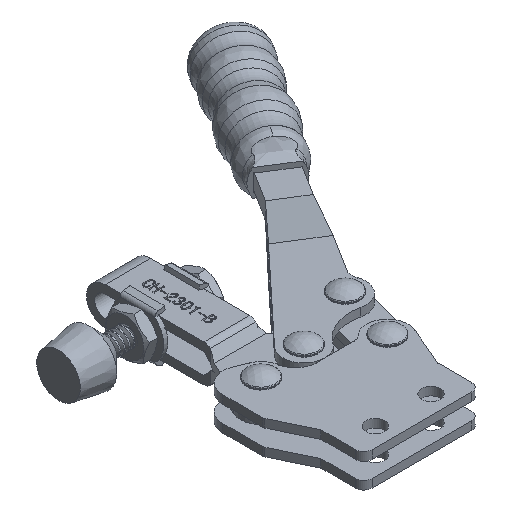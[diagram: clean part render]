
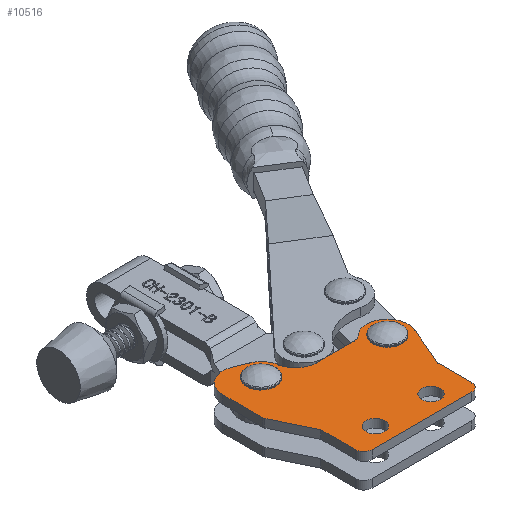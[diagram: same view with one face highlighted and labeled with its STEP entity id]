
A CAD part, isometric view. The second image highlights one B-rep face of the part: STEP entity #10516.
In plain terms, the highlighted planar face has unit normal (0, 0, 1).
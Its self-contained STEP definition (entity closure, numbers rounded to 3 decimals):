
#200=FACE_BOUND('',#2117,.T.);
#201=FACE_BOUND('',#2118,.T.);
#202=FACE_BOUND('',#2119,.T.);
#203=FACE_BOUND('',#2120,.T.);
#1067=PLANE('',#11166);
#1523=FACE_OUTER_BOUND('',#2116,.T.);
#2116=EDGE_LOOP('',(#9130,#9131,#9132,#9133,#9134,#9135,#9136,#9137,#9138,
#9139,#9140,#9141,#9142,#9143,#9144,#9145));
#2117=EDGE_LOOP('',(#9146,#9147));
#2118=EDGE_LOOP('',(#9148,#9149));
#2119=EDGE_LOOP('',(#9150,#9151));
#2120=EDGE_LOOP('',(#9152,#9153));
#2972=LINE('',#24680,#3821);
#2975=LINE('',#24688,#3824);
#2978=LINE('',#24696,#3827);
#2979=LINE('',#24698,#3828);
#2981=LINE('',#24702,#3830);
#2984=LINE('',#24710,#3833);
#2987=LINE('',#24720,#3836);
#2988=LINE('',#24722,#3837);
#3821=VECTOR('',#12727,1000.);
#3824=VECTOR('',#12736,1000.);
#3827=VECTOR('',#12745,1000.);
#3828=VECTOR('',#12748,1000.);
#3830=VECTOR('',#12752,1000.);
#3833=VECTOR('',#12761,1000.);
#3836=VECTOR('',#12774,1000.);
#3837=VECTOR('',#12777,1000.);
#4046=CIRCLE('',#11116,2.25);
#4047=CIRCLE('',#11117,2.25);
#4050=CIRCLE('',#11121,2.25);
#4051=CIRCLE('',#11122,2.25);
#4053=CIRCLE('',#11125,5.);
#4056=CIRCLE('',#11129,2.);
#4057=CIRCLE('',#11130,2.);
#4060=CIRCLE('',#11134,2.);
#4061=CIRCLE('',#11135,2.);
#4063=CIRCLE('',#11138,1.);
#4065=CIRCLE('',#11141,2.);
#4071=CIRCLE('',#11150,2.);
#4072=CIRCLE('',#11153,2.);
#4073=CIRCLE('',#11158,5.);
#4074=CIRCLE('',#11161,5.1);
#4075=CIRCLE('',#11163,5.052);
#4964=VERTEX_POINT('',#24591);
#4965=VERTEX_POINT('',#24593);
#4968=VERTEX_POINT('',#24601);
#4969=VERTEX_POINT('',#24603);
#4972=VERTEX_POINT('',#24610);
#4973=VERTEX_POINT('',#24612);
#4976=VERTEX_POINT('',#24620);
#4977=VERTEX_POINT('',#24622);
#4980=VERTEX_POINT('',#24630);
#4981=VERTEX_POINT('',#24632);
#4984=VERTEX_POINT('',#24639);
#4985=VERTEX_POINT('',#24641);
#4987=VERTEX_POINT('',#24647);
#4999=VERTEX_POINT('',#24676);
#5000=VERTEX_POINT('',#24678);
#5001=VERTEX_POINT('',#24682);
#5002=VERTEX_POINT('',#24686);
#5003=VERTEX_POINT('',#24690);
#5004=VERTEX_POINT('',#24694);
#5005=VERTEX_POINT('',#24700);
#5006=VERTEX_POINT('',#24704);
#5007=VERTEX_POINT('',#24708);
#5008=VERTEX_POINT('',#24712);
#5009=VERTEX_POINT('',#24716);
#6383=EDGE_CURVE('',#4964,#4965,#4046,.T.);
#6384=EDGE_CURVE('',#4965,#4964,#4047,.T.);
#6388=EDGE_CURVE('',#4968,#4969,#4050,.T.);
#6389=EDGE_CURVE('',#4969,#4968,#4051,.T.);
#6392=EDGE_CURVE('',#4972,#4973,#4053,.T.);
#6397=EDGE_CURVE('',#4976,#4977,#4056,.T.);
#6398=EDGE_CURVE('',#4977,#4976,#4057,.T.);
#6402=EDGE_CURVE('',#4980,#4981,#4060,.T.);
#6403=EDGE_CURVE('',#4981,#4980,#4061,.T.);
#6406=EDGE_CURVE('',#4984,#4985,#4063,.T.);
#6410=EDGE_CURVE('',#4972,#4987,#4065,.T.);
#6426=EDGE_CURVE('',#5000,#4999,#2972,.T.);
#6427=EDGE_CURVE('',#4999,#5001,#4071,.T.);
#6430=EDGE_CURVE('',#5001,#5002,#2975,.T.);
#6431=EDGE_CURVE('',#5002,#5003,#4072,.T.);
#6434=EDGE_CURVE('',#5003,#5004,#2978,.T.);
#6435=EDGE_CURVE('',#5004,#4984,#2979,.T.);
#6437=EDGE_CURVE('',#4985,#5005,#2981,.T.);
#6438=EDGE_CURVE('',#5005,#5006,#4073,.T.);
#6441=EDGE_CURVE('',#5006,#5007,#2984,.T.);
#6442=EDGE_CURVE('',#5007,#5008,#4074,.T.);
#6445=EDGE_CURVE('',#5008,#5009,#4075,.T.);
#6446=EDGE_CURVE('',#5009,#4987,#2987,.T.);
#6447=EDGE_CURVE('',#4973,#5000,#2988,.T.);
#9130=ORIENTED_EDGE('',*,*,#6392,.F.);
#9131=ORIENTED_EDGE('',*,*,#6410,.T.);
#9132=ORIENTED_EDGE('',*,*,#6446,.F.);
#9133=ORIENTED_EDGE('',*,*,#6445,.F.);
#9134=ORIENTED_EDGE('',*,*,#6442,.F.);
#9135=ORIENTED_EDGE('',*,*,#6441,.F.);
#9136=ORIENTED_EDGE('',*,*,#6438,.F.);
#9137=ORIENTED_EDGE('',*,*,#6437,.F.);
#9138=ORIENTED_EDGE('',*,*,#6406,.F.);
#9139=ORIENTED_EDGE('',*,*,#6435,.F.);
#9140=ORIENTED_EDGE('',*,*,#6434,.F.);
#9141=ORIENTED_EDGE('',*,*,#6431,.F.);
#9142=ORIENTED_EDGE('',*,*,#6430,.F.);
#9143=ORIENTED_EDGE('',*,*,#6427,.F.);
#9144=ORIENTED_EDGE('',*,*,#6426,.F.);
#9145=ORIENTED_EDGE('',*,*,#6447,.F.);
#9146=ORIENTED_EDGE('',*,*,#6398,.F.);
#9147=ORIENTED_EDGE('',*,*,#6397,.F.);
#9148=ORIENTED_EDGE('',*,*,#6403,.F.);
#9149=ORIENTED_EDGE('',*,*,#6402,.F.);
#9150=ORIENTED_EDGE('',*,*,#6384,.F.);
#9151=ORIENTED_EDGE('',*,*,#6383,.F.);
#9152=ORIENTED_EDGE('',*,*,#6389,.F.);
#9153=ORIENTED_EDGE('',*,*,#6388,.F.);
#10516=ADVANCED_FACE('',(#1523,#200,#201,#202,#203),#1067,.F.);
#11116=AXIS2_PLACEMENT_3D('',#24594,#12643,#12644);
#11117=AXIS2_PLACEMENT_3D('',#24595,#12645,#12646);
#11121=AXIS2_PLACEMENT_3D('',#24604,#12654,#12655);
#11122=AXIS2_PLACEMENT_3D('',#24605,#12656,#12657);
#11125=AXIS2_PLACEMENT_3D('',#24613,#12663,#12664);
#11129=AXIS2_PLACEMENT_3D('',#24623,#12673,#12674);
#11130=AXIS2_PLACEMENT_3D('',#24624,#12675,#12676);
#11134=AXIS2_PLACEMENT_3D('',#24633,#12684,#12685);
#11135=AXIS2_PLACEMENT_3D('',#24634,#12686,#12687);
#11138=AXIS2_PLACEMENT_3D('',#24642,#12693,#12694);
#11141=AXIS2_PLACEMENT_3D('',#24649,#12701,#12702);
#11150=AXIS2_PLACEMENT_3D('',#24683,#12730,#12731);
#11153=AXIS2_PLACEMENT_3D('',#24691,#12739,#12740);
#11158=AXIS2_PLACEMENT_3D('',#24705,#12755,#12756);
#11161=AXIS2_PLACEMENT_3D('',#24713,#12764,#12765);
#11163=AXIS2_PLACEMENT_3D('',#24718,#12770,#12771);
#11166=AXIS2_PLACEMENT_3D('',#24723,#12778,#12779);
#12643=DIRECTION('center_axis',(0.,0.,1.));
#12644=DIRECTION('ref_axis',(1.,0.,0.));
#12645=DIRECTION('center_axis',(0.,0.,1.));
#12646=DIRECTION('ref_axis',(1.,0.,0.));
#12654=DIRECTION('center_axis',(0.,0.,1.));
#12655=DIRECTION('ref_axis',(1.,0.,0.));
#12656=DIRECTION('center_axis',(0.,0.,1.));
#12657=DIRECTION('ref_axis',(1.,0.,0.));
#12663=DIRECTION('center_axis',(0.,0.,-1.));
#12664=DIRECTION('ref_axis',(1.,0.,0.));
#12673=DIRECTION('center_axis',(0.,0.,1.));
#12674=DIRECTION('ref_axis',(1.,0.,0.));
#12675=DIRECTION('center_axis',(0.,0.,1.));
#12676=DIRECTION('ref_axis',(1.,0.,0.));
#12684=DIRECTION('center_axis',(0.,0.,1.));
#12685=DIRECTION('ref_axis',(1.,0.,0.));
#12686=DIRECTION('center_axis',(0.,0.,1.));
#12687=DIRECTION('ref_axis',(1.,0.,0.));
#12693=DIRECTION('center_axis',(0.,0.,-1.));
#12694=DIRECTION('ref_axis',(1.,0.,0.));
#12701=DIRECTION('center_axis',(0.,0.,-1.));
#12702=DIRECTION('ref_axis',(1.,0.,0.));
#12727=DIRECTION('',(0.,-1.,0.));
#12730=DIRECTION('center_axis',(0.,0.,-1.));
#12731=DIRECTION('ref_axis',(1.,0.,0.));
#12736=DIRECTION('',(-1.,0.,0.));
#12739=DIRECTION('center_axis',(0.,0.,-1.));
#12740=DIRECTION('ref_axis',(1.,0.,0.));
#12745=DIRECTION('',(0.,1.,0.));
#12748=DIRECTION('',(-0.437,0.9,0.));
#12752=DIRECTION('',(0.,1.,0.));
#12755=DIRECTION('center_axis',(0.,0.,-1.));
#12756=DIRECTION('ref_axis',(1.,0.,0.));
#12761=DIRECTION('',(0.925,-0.38,0.));
#12764=DIRECTION('center_axis',(0.,0.,-1.));
#12765=DIRECTION('ref_axis',(1.,0.,0.));
#12770=DIRECTION('center_axis',(0.,0.,1.));
#12771=DIRECTION('ref_axis',(1.,0.,0.));
#12774=DIRECTION('',(1.,0.,0.));
#12777=DIRECTION('',(-0.392,-0.92,0.));
#12778=DIRECTION('center_axis',(0.,0.,-1.));
#12779=DIRECTION('ref_axis',(-1.,0.,0.));
#24591=CARTESIAN_POINT('',(18.45,4.5,8.));
#24593=CARTESIAN_POINT('',(22.95,4.5,8.));
#24594=CARTESIAN_POINT('Origin',(20.7,4.5,8.));
#24595=CARTESIAN_POINT('Origin',(20.7,4.5,8.));
#24601=CARTESIAN_POINT('',(5.05,4.5,8.));
#24603=CARTESIAN_POINT('',(9.55,4.5,8.));
#24604=CARTESIAN_POINT('Origin',(7.3,4.5,8.));
#24605=CARTESIAN_POINT('Origin',(7.3,4.5,8.));
#24610=CARTESIAN_POINT('',(24.001,25.371,8.));
#24612=CARTESIAN_POINT('',(32.099,19.838,8.));
#24613=CARTESIAN_POINT('Origin',(27.5,21.8,8.));
#24620=CARTESIAN_POINT('',(1.4,28.1,8.));
#24622=CARTESIAN_POINT('',(5.4,28.1,8.));
#24623=CARTESIAN_POINT('Origin',(3.4,28.1,8.));
#24624=CARTESIAN_POINT('Origin',(3.4,28.1,8.));
#24630=CARTESIAN_POINT('',(25.5,21.8,8.));
#24632=CARTESIAN_POINT('',(29.5,21.8,8.));
#24633=CARTESIAN_POINT('Origin',(27.5,21.8,8.));
#24634=CARTESIAN_POINT('Origin',(27.5,21.8,8.));
#24639=CARTESIAN_POINT('',(-4.4,19.361,8.));
#24641=CARTESIAN_POINT('',(-4.5,19.797,8.));
#24642=CARTESIAN_POINT('Origin',(-3.5,19.797,8.));
#24647=CARTESIAN_POINT('',(22.601,24.8,8.));
#24649=CARTESIAN_POINT('Origin',(22.601,26.8,8.));
#24676=CARTESIAN_POINT('',(28.031,2.,8.));
#24678=CARTESIAN_POINT('',(28.031,10.3,8.));
#24680=CARTESIAN_POINT('',(28.031,21.8,8.));
#24682=CARTESIAN_POINT('',(26.031,0.,8.));
#24683=CARTESIAN_POINT('Origin',(26.031,2.,8.));
#24686=CARTESIAN_POINT('',(2.,0.,8.));
#24688=CARTESIAN_POINT('',(27.5,0.,8.));
#24690=CARTESIAN_POINT('',(0.,2.,8.));
#24691=CARTESIAN_POINT('Origin',(2.,2.,8.));
#24694=CARTESIAN_POINT('',(0.,10.3,8.));
#24696=CARTESIAN_POINT('',(0.,21.8,8.));
#24698=CARTESIAN_POINT('',(0.,10.3,8.));
#24700=CARTESIAN_POINT('',(-4.5,29.4,8.));
#24702=CARTESIAN_POINT('',(-4.5,21.8,8.));
#24704=CARTESIAN_POINT('',(2.401,34.025,8.));
#24705=CARTESIAN_POINT('Origin',(0.5,29.4,8.));
#24708=CARTESIAN_POINT('',(5.339,32.817,8.));
#24710=CARTESIAN_POINT('',(2.401,34.025,8.));
#24712=CARTESIAN_POINT('',(8.423,28.98,8.));
#24713=CARTESIAN_POINT('Origin',(3.4,28.1,8.));
#24716=CARTESIAN_POINT('',(13.4,24.8,8.));
#24718=CARTESIAN_POINT('Origin',(13.4,29.852,8.));
#24720=CARTESIAN_POINT('',(27.5,24.8,8.));
#24722=CARTESIAN_POINT('',(32.099,19.838,8.));
#24723=CARTESIAN_POINT('Origin',(27.5,21.8,8.));
